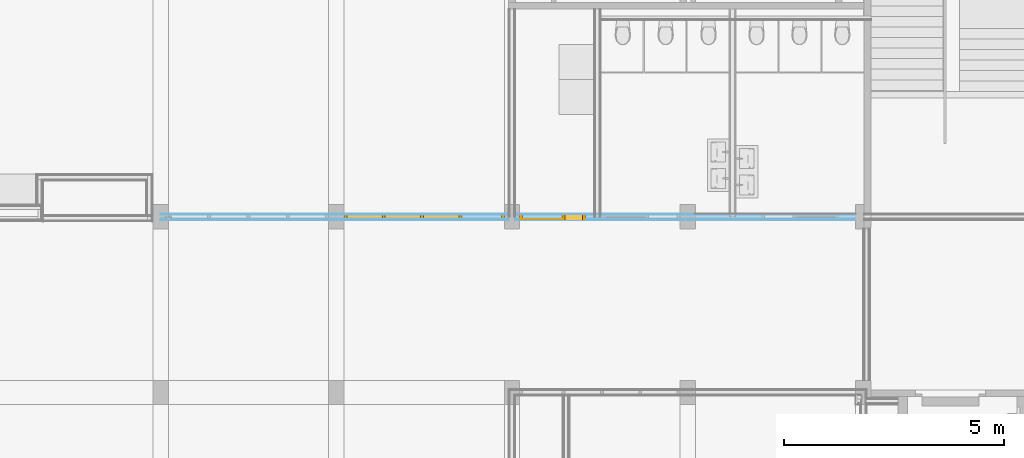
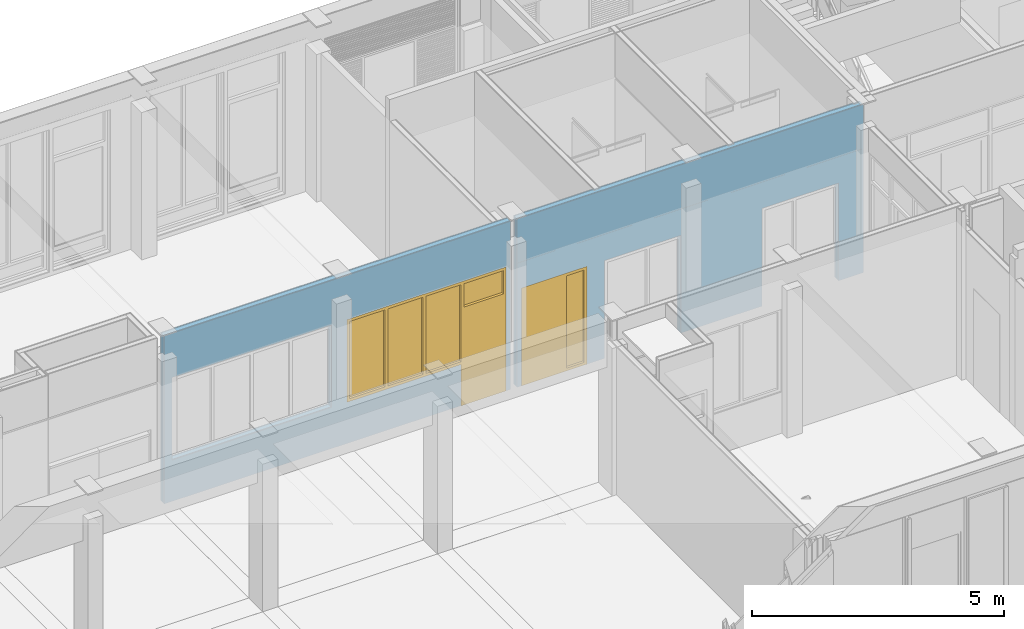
# One storey, part 62 of 109: 2 doors, 5 openings, 1 element without a shape of its own, plus 5 elements that do not belong to this part.
"""IFC2X3 building model written with IfcOpenShell, lengths in millimetres."""

from ifc_helpers import new_model, entity, si_unit, converted_unit, derived_unit, money_unit, direction, frame, origin_with_axes, place, context, subcontext, project, spatial, open_shell, faceted_brep, surface_model, material, type_object, element, fill, aggregate, save


model = new_model("IFC2X3")

# Units and contexts
model_context = context("Model", 3, precision=0.01, world=origin_with_axes(), true_north=direction((0.0, 1.0)))
body_context = subcontext(model_context, "Body", "Model", "MODEL_VIEW")
ifc_project = project(units=[si_unit("LENGTHUNIT", "METRE", prefix="MILLI"), si_unit("AREAUNIT", "SQUARE_METRE"), si_unit("VOLUMEUNIT", "CUBIC_METRE"), converted_unit("PLANEANGLEUNIT", "DEGREE", entity("IfcPlaneAngleMeasure", 0.0174532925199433), si_unit("PLANEANGLEUNIT", "RADIAN"), dimensions=[0, 0, 0, 0, 0, 0, 0]), money_unit("EUR"), converted_unit("TIMEUNIT", "Year", entity("IfcTimeMeasure", 31557600.0), si_unit("TIMEUNIT", "SECOND"), dimensions=[0, 0, 1, 0, 0, 0, 0]), si_unit("MASSUNIT", "GRAM", prefix="KILO"), si_unit("THERMODYNAMICTEMPERATUREUNIT", "DEGREE_CELSIUS"), si_unit("LUMINOUSINTENSITYUNIT", "LUMEN"), si_unit("ENERGYUNIT", "JOULE", prefix="MEGA"), derived_unit("THERMALCONDUCTANCEUNIT", [(si_unit("POWERUNIT", "WATT"), 1), (si_unit("LENGTHUNIT", "METRE"), -1), (si_unit("THERMODYNAMICTEMPERATUREUNIT", "KELVIN"), -1)]), derived_unit("SPECIFICHEATCAPACITYUNIT", [(si_unit("ENERGYUNIT", "JOULE"), 1), (si_unit("MASSUNIT", "GRAM", prefix="KILO"), -1), (si_unit("THERMODYNAMICTEMPERATUREUNIT", "KELVIN"), -1)]), derived_unit("MASSDENSITYUNIT", [(si_unit("MASSUNIT", "GRAM", prefix="KILO"), 1), (si_unit("VOLUMEUNIT", "CUBIC_METRE"), -1)])], contexts=[model_context])

# Site, building, storey
site_placement = place(None, origin_with_axes())
site = spatial("IfcSite", under=ifc_project, at=site_placement, Name="<site naam>", CompositionType="ELEMENT")
building_placement = place(site_placement, origin_with_axes())
building = spatial("IfcBuilding", under=site, at=building_placement, Name="<Naam gebouw>", CompositionType="ELEMENT")
storey_placement = place(building_placement, origin_with_axes())
storey = spatial("IfcBuildingStorey", under=building, at=storey_placement, Name="00 Begane grond", CompositionType="ELEMENT", Elevation=0.0)

# Door
door_style_1 = type_object("IfcDoorStyle", Name="D1 bl zl1-b 27", ConstructionType="NOTDEFINED", OperationType="SINGLE_SWING_LEFT", ParameterTakesPrecedence=False, Sizeable=False)
wall_placement = place(storey_placement, frame((32000.05040030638, 11999.96371028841, 0.0), z_axis=(0.0, 0.0, 1.0), x_axis=(0.999999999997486, 2.242345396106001e-06, 0.0)))
opening_5_placement = place(wall_placement, frame((5999.95021640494, 0.0, 0.0), z_axis=(0.0, 0.0, 1.0), x_axis=(1.0, 0.0, 0.0)))
door_1_placement = place(opening_5_placement, frame((450.0000000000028, 0.0, 0.0), z_axis=(0.0, 0.0, 1.0), x_axis=(-1.0, 0.0, 0.0)))
door_1 = element("IfcDoor", 1, at=door_1_placement, inside=storey, type_object=door_style_1, Name="22_BI-E-02_305", ObjectType="DOOR", OverallHeight=3000.0, OverallWidth=3650.0, context=body_context, shape_type="SurfaceModel", body=[
    faceted_brep([(2275.00000000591, 75.00936168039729, 1000.0), (2274.999744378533, -38.99063831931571, 1000.0), (2207.999744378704, -38.99048808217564, 1000.0), (2208.000000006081, 75.00951191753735, 1000.0), (2275.00000000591, 75.00936168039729, 2933.0), (2274.999744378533, -38.99063831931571, 2933.0), (2207.999744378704, -38.99048808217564, 2933.0), (2207.999744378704, -38.99048808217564, 1067.0), (2208.000000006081, 75.00951191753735, 1067.0), (2208.000000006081, 75.00951191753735, 2933.0)], [[[0, 1, 2, 3]], [[4, 5, 1, 0]], [[1, 5, 6, 7, 2]], [[3, 2, 7, 8]], [[0, 3, 8, 9, 4]], [[9, 6, 5, 4]], [[8, 7, 6, 9]]]),
    faceted_brep([(-408.0000896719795, 35.0153778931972, 2317.0), (-408.0000896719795, 35.0153778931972, 2300.0), (-408.0002556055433, -38.98462210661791, 2300.0), (-408.0002556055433, -38.98462210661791, 2367.0), (-407.9999999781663, 75.01537789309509, 2367.0), (-407.9999999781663, 75.01537789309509, 2317.0), (-391.0000896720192, 35.01533977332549, 2317.0), (-391.0000896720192, 35.01533977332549, 0.0), (-408.0000896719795, 35.0153778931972, 0.0), (-408.0002556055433, -38.98462210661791, 0.0), (-341.0002556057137, -38.98477234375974, 0.0), (-341.0002556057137, -38.98477234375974, 1000.0), (-341.0002556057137, -38.98477234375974, 1067.0), (-341.0002556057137, -38.98477234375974, 2933.0), (-408.0002556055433, -38.98462210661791, 2933.0), (-407.9999999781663, 75.01537789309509, 2933.0), (-390.9999999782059, 75.01533977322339, 2317.0), (-340.9999999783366, 75.01522765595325, 2933.0), (-340.9999999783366, 75.01522765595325, 1067.0), (-340.9999999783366, 75.01522765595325, 1000.0), (-340.9999999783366, 75.01522765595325, 0.0), (-390.9999999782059, 75.01533977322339, 0.0)], [[[0, 1, 2, 3, 4, 5]], [[0, 6, 7, 8, 1]], [[8, 9, 2, 1]], [[2, 9, 10, 11, 12, 13, 14, 3]], [[15, 4, 3, 14]], [[16, 5, 4, 15, 17, 18, 19, 20, 21]], [[5, 16, 6, 0]], [[21, 7, 6, 16]], [[7, 21, 20, 10, 9, 8]], [[20, 19, 11, 10]], [[19, 18, 12, 11]], [[18, 17, 13, 12]], [[17, 15, 14, 13]]]),
    faceted_brep([(2208.000000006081, 75.00951191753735, 1067.0), (2207.999744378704, -38.99048808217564, 1067.0), (2207.999744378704, -38.99048808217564, 1000.0), (2208.000000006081, 75.00951191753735, 1000.0), (-340.9999999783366, 75.01522765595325, 1067.0), (-341.0002556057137, -38.98477234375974, 1067.0), (-341.0002556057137, -38.98477234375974, 1000.0), (-340.9999999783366, 75.01522765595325, 1000.0)], [[[0, 1, 2, 3]], [[4, 5, 1, 0]], [[1, 5, 6, 2]], [[3, 2, 6, 7]], [[0, 3, 7, 4]], [[7, 6, 5, 4]]]),
    faceted_brep([(-1324.999999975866, 75.01743412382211, 2317.0), (-1324.999999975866, 75.01743412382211, 0.0), (-1374.999999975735, 75.01754624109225, 0.0), (-1374.999999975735, 75.01754624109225, 2933.0), (-1307.999999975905, 75.01739600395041, 2933.0), (-1307.999999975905, 75.01739600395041, 2367.0), (-1307.999999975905, 75.01739600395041, 2317.0), (-1325.000089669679, 35.01743412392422, 2317.0), (-1325.000089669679, 35.01743412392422, 0.0), (-1308.000089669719, 35.01739600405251, 0.0), (-1308.000255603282, -38.98260399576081, 0.0), (-1375.000255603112, -38.98245375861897, 0.0), (-1375.000255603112, -38.98245375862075, 2933.0), (-1308.000255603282, -38.98260399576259, 2933.0), (-1308.000255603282, -38.98260399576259, 2367.0), (-1308.000089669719, 35.01739600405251, 2317.0), (-1308.000255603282, -38.98260399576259, 2300.0)], [[[0, 1, 2, 3, 4, 5, 6]], [[0, 7, 8, 1]], [[8, 9, 10, 11, 2, 1]], [[3, 2, 11, 12]], [[4, 3, 12, 13]], [[5, 4, 13, 14]], [[15, 6, 5, 14, 16, 10, 9]], [[6, 15, 7, 0]], [[8, 7, 15, 9]], [[14, 13, 12, 11, 10, 16]]]),
    faceted_brep([(2275.00000000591, 75.00936168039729, 3000.0), (2274.999744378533, -38.99063831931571, 3000.0), (2274.999744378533, -38.99063831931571, 2933.0), (2275.00000000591, 75.00936168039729, 2933.0), (-1374.999999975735, 75.01754624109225, 3000.0), (-1375.000255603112, -38.98245375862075, 3000.0), (-1375.000255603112, -38.98245375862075, 2933.0), (-1308.000255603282, -38.98260399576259, 2933.0), (-408.0002556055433, -38.98462210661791, 2933.0), (-341.0002556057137, -38.98477234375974, 2933.0), (2207.999744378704, -38.99048808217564, 2933.0), (2208.000000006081, 75.00951191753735, 2933.0), (-340.9999999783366, 75.01522765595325, 2933.0), (-407.9999999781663, 75.01537789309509, 2933.0), (-1307.999999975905, 75.01739600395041, 2933.0), (-1374.999999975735, 75.01754624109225, 2933.0)], [[[0, 1, 2, 3]], [[4, 5, 1, 0]], [[1, 5, 6, 7, 8, 9, 10, 2]], [[3, 2, 10, 11]], [[0, 3, 11, 12, 13, 14, 15, 4]], [[15, 6, 5, 4]], [[14, 7, 6, 15]], [[13, 8, 7, 14]], [[12, 9, 8, 13]], [[11, 10, 9, 12]]]),
    faceted_brep([(-1308.000089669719, 35.01739600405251, 2317.0), (-1308.000089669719, 35.01739600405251, 2300.0), (-1308.000255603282, -38.98260399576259, 2300.0), (-1308.000255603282, -38.98260399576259, 2367.0), (-1307.999999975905, 75.01739600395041, 2367.0), (-1307.999999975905, 75.01739600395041, 2317.0), (-408.0000896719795, 35.0153778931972, 2317.0), (-408.0000896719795, 35.0153778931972, 2300.0), (-408.0002556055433, -38.98462210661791, 2300.0), (-408.0002556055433, -38.98462210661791, 2367.0), (-407.9999999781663, 75.01537789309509, 2367.0), (-407.9999999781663, 75.01537789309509, 2317.0)], [[[0, 1, 2, 3, 4, 5]], [[0, 6, 7, 1]], [[7, 8, 2, 1]], [[8, 9, 3, 2]], [[10, 4, 3, 9]], [[5, 4, 10, 11]], [[5, 11, 6, 0]], [[6, 11, 10, 9, 8, 7]]]),
    faceted_brep([(-1324.999999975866, 75.01743412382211, 0.0), (-390.999999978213, 75.01533977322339, 0.0), (-391.0000896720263, 35.01533977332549, 0.0), (-1325.000089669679, 35.01743412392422, 0.0), (-1324.999999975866, 75.01743412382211, 2317.0), (-390.999999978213, 75.01533977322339, 2317.0), (-391.0000896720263, 35.01533977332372, 2317.0), (-1325.000089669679, 35.01743412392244, 2317.0)], [[[0, 1, 2, 3]], [[0, 4, 5, 1]], [[1, 5, 6, 2]], [[3, 2, 6, 7]], [[4, 0, 3, 7]], [[5, 4, 7, 6]]]),
    faceted_brep([(-408.0001345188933, 15.01537789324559, 2367.0), (-408.0002556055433, -38.98462210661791, 2367.0), (-1308.000255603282, -38.98260399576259, 2367.0), (-1308.000134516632, 15.0173960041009, 2367.0), (-408.0001345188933, 15.01537789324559, 2933.0), (-408.0002556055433, -38.98462210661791, 2933.0), (-1308.000255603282, -38.98260399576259, 2933.0), (-1308.000134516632, 15.0173960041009, 2933.0)], [[[0, 1, 2, 3]], [[4, 5, 1, 0]], [[1, 5, 6, 2]], [[3, 2, 6, 7]], [[0, 3, 7, 4]], [[7, 6, 5, 4]]]),
    surface_model("IfcShellBasedSurfaceModel", [(1402.999878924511, 21.01131700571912, 1067.0), (1402.999878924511, 21.01131700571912, 2933.0), (2207.999878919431, 21.00951191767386, 2933.0), (2207.999878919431, 21.00951191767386, 1067.0)], [open_shell([[[0, 1, 2, 3]]])]),
    surface_model("IfcShellBasedSurfaceModel", [(1402.999852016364, 9.011317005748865, 1067.0), (2207.999852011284, 9.009511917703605, 1067.0), (2207.999852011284, 9.009511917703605, 2933.0), (1402.999852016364, 9.011317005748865, 2933.0)], [open_shell([[[0, 1, 2, 3]]])]),
    surface_model("IfcShellBasedSurfaceModel", [(530.9998789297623, 21.01327233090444, 1067.0), (530.9998789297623, 21.01327233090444, 2933.0), (1335.999878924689, 21.01146724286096, 2933.0), (1335.999878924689, 21.01146724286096, 1067.0)], [open_shell([[[0, 1, 2, 3]]])]),
    surface_model("IfcShellBasedSurfaceModel", [(530.9998520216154, 9.013272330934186, 1067.0), (1335.999852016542, 9.011467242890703, 1067.0), (1335.999852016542, 9.011467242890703, 2933.0), (530.9998520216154, 9.013272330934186, 2933.0)], [open_shell([[[0, 1, 2, 3]]])]),
    surface_model("IfcShellBasedSurfaceModel", [(-341.0001210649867, 21.01522765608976, 1067.0), (-341.0001210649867, 21.01522765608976, 2933.0), (463.9998789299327, 21.01342256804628, 2933.0), (463.9998789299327, 21.01342256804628, 1067.0)], [open_shell([[[0, 1, 2, 3]]])]),
    surface_model("IfcShellBasedSurfaceModel", [(-341.0001479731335, 9.015227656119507, 1067.0), (463.9998520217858, 9.013422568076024, 1067.0), (463.9998520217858, 9.013422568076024, 2933.0), (-341.0001479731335, 9.015227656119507, 2933.0)], [open_shell([[[0, 1, 2, 3]]])]),
    faceted_brep([(1403.000000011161, 75.01131700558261, 1067.0), (1402.999744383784, -38.98868299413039, 1067.0), (1335.999744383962, -38.98853275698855, 1067.0), (1336.000000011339, 75.01146724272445, 1067.0), (1403.000000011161, 75.01131700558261, 2933.0), (1402.999744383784, -38.98868299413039, 2933.0), (1335.999744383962, -38.98853275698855, 2933.0), (1336.000000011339, 75.01146724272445, 2933.0)], [[[0, 1, 2, 3]], [[4, 5, 1, 0]], [[1, 5, 6, 2]], [[3, 2, 6, 7]], [[0, 3, 7, 4]], [[7, 6, 5, 4]]]),
    faceted_brep([(531.0000000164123, 75.01327233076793, 1067.0), (530.9997443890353, -38.98672766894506, 1067.0), (463.9997443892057, -38.98657743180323, 1067.0), (464.0000000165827, 75.01342256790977, 1067.0), (531.0000000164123, 75.01327233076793, 2933.0), (530.9997443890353, -38.98672766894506, 2933.0), (463.9997443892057, -38.98657743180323, 2933.0), (464.0000000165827, 75.01342256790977, 2933.0)], [[[0, 1, 2, 3]], [[4, 5, 1, 0]], [[1, 5, 6, 2]], [[3, 2, 6, 7]], [[0, 3, 7, 4]], [[7, 6, 5, 4]]]),
])

door_style_2 = type_object("IfcDoorStyle", Name="D1 zl1-b 27", ConstructionType="NOTDEFINED", OperationType="SINGLE_SWING_RIGHT", ParameterTakesPrecedence=False, Sizeable=False)
opening_3_placement = place(wall_placement, frame((8924.950216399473, 0.0, 0.0), z_axis=(0.0, 0.0, 1.0), x_axis=(1.0, 0.0, 0.0)))
door_2_placement = place(opening_3_placement, frame((750.000000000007, 0.0, 0.0), z_axis=(0.0, 0.0, 1.0), x_axis=(-1.0, 0.0, 0.0)))
door_2 = element("IfcDoor", 2, at=door_2_placement, inside=storey, type_object=door_style_2, Name="22_BI-C-02 sp_305", ObjectType="DOOR", OverallHeight=2367.0, OverallWidth=1500.0, context=body_context, shape_type="SurfaceModel", body=[
    faceted_brep([(2.433608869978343e-08, 75.0216945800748, 0.0), (67.00000002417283, 75.02154434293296, 0.0), (66.99974439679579, -38.97845565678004, 0.0), (-0.0002556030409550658, -38.9783054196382, 0.0), (2.433608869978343e-08, 75.0216945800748, 2300.0), (67.00000002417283, 75.02154434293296, 2300.0), (67.00000002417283, 75.02154434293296, 67.0), (66.99974439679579, -38.97845565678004, 66.99999999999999), (66.99974439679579, -38.97845565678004, 2300.0), (-0.0002556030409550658, -38.9783054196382, 2300.0)], [[[0, 1, 2, 3]], [[0, 4, 5, 6, 1]], [[1, 6, 7, 2]], [[3, 2, 7, 8, 9]], [[4, 0, 3, 9]], [[5, 4, 9, 8]], [[6, 5, 8, 7]]]),
    faceted_brep([(532.9999103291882, 35.02049941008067, 0.0), (532.9999103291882, 35.0204994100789, 2300.0), (532.9997443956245, -38.97950058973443, 2300.0), (532.9997443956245, -38.97950058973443, 0.0), (515.9999103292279, 35.0205375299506, 2300.0), (515.9999103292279, 35.02053752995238, 0.0), (516.0000000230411, 75.02053752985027, 2300.0), (466.0000000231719, 75.02064964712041, 2300.0), (465.9997443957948, -38.97935035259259, 2300.0), (465.9997443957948, -38.97935035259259, 0.0), (465.9997443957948, -38.97935035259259, 66.99999999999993), (466.0000000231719, 75.02064964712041, 0.0), (516.0000000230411, 75.02053752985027, 0.0), (466.0000000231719, 75.02064964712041, 66.99999999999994)], [[[0, 1, 2, 3]], [[4, 1, 0, 5]], [[4, 6, 7, 8, 2, 1]], [[9, 3, 2, 8, 10]], [[5, 0, 3, 9, 11, 12]], [[6, 4, 5, 12]], [[6, 12, 11, 13, 7]], [[13, 10, 8, 7]], [[11, 9, 10, 13]]]),
    faceted_brep([(67.00000002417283, 75.02154434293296, 67.0), (67.00000002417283, 75.02154434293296, 0.0), (66.99974439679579, -38.97845565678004, 0.0), (66.99974439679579, -38.97845565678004, 66.99999999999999), (466.0000000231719, 75.02064964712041, 67.0), (466.0000000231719, 75.02064964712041, 0.0), (465.9997443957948, -38.97935035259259, 0.0), (465.9997443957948, -38.97935035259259, 66.99999999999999)], [[[0, 1, 2, 3]], [[0, 4, 5, 1]], [[1, 5, 6, 2]], [[3, 2, 6, 7]], [[4, 0, 3, 7]], [[5, 4, 7, 6]]]),
    faceted_brep([(1449.999910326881, 35.01844317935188, 2300.0), (1432.99991032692, 35.01848129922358, 2300.0), (1432.999744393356, -38.98151870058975, 2300.0), (1499.999744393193, -38.98166893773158, 2300.0), (1500.00000002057, 75.01833106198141, 2300.0), (1450.000000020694, 75.01844317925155, 2300.0), (1449.999910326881, 35.01844317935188, 0.0), (1432.99991032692, 35.01848129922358, 0.0), (1432.999744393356, -38.98151870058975, 0.0), (1499.999744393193, -38.98166893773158, 0.0), (1500.00000002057, 75.01833106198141, 0.0), (1450.000000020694, 75.01844317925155, 0.0)], [[[0, 1, 2, 3, 4, 5]], [[1, 0, 6, 7]], [[1, 7, 8, 2]], [[3, 2, 8, 9]], [[4, 3, 9, 10]], [[11, 5, 4, 10]], [[0, 5, 11, 6]], [[6, 11, 10, 9, 8, 7]]]),
    faceted_brep([(516.0000000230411, 75.02053752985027, 2317.0), (516.0000000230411, 75.02053752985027, 2300.0), (466.0000000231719, 75.02064964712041, 2300.0), (67.00000002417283, 75.02154434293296, 2300.0), (2.433608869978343e-08, 75.0216945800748, 2300.0), (2.433608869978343e-08, 75.0216945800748, 2367.0), (1500.00000002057, 75.01833106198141, 2367.0), (1500.00000002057, 75.01833106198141, 2300.0), (1450.000000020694, 75.01844317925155, 2300.0), (1450.000000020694, 75.01844317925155, 2317.0), (515.9999103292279, 35.0205375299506, 2317.0), (515.9999103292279, 35.0205375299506, 2300.0), (1432.99991032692, 35.01848129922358, 2300.0), (1432.999744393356, -38.98151870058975, 2300.0), (532.9997443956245, -38.97950058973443, 2300.0), (465.9997443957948, -38.97935035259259, 2300.0), (66.99974439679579, -38.97845565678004, 2300.0), (-0.0002556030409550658, -38.9783054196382, 2300.0), (-0.0002556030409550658, -38.9783054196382, 2367.0), (1499.999744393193, -38.98166893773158, 2367.0), (1499.999744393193, -38.98166893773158, 2300.0), (1449.999910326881, 35.01844317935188, 2300.0), (1449.999910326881, 35.01844317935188, 2317.0)], [[[0, 1, 2, 3, 4, 5, 6, 7, 8, 9]], [[1, 0, 10, 11]], [[11, 12, 13, 14, 15, 2, 1]], [[2, 15, 16, 3]], [[3, 16, 17, 4]], [[4, 17, 18, 5]], [[5, 18, 19, 6]], [[6, 19, 20, 7]], [[21, 8, 7, 20, 13, 12]], [[9, 8, 21, 22]], [[0, 9, 22, 10]], [[21, 12, 11, 10, 22]], [[13, 20, 19, 18, 17, 16, 15, 14]]]),
    faceted_brep([(1450.000000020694, 75.01844317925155, 0.0), (1449.999910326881, 35.01844317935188, 0.0), (515.9999103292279, 35.02053752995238, 0.0), (516.0000000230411, 75.02053752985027, 0.0), (1450.000000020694, 75.01844317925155, 2317.0), (1449.999910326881, 35.01844317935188, 2317.0), (515.9999103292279, 35.0205375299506, 2317.0), (516.0000000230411, 75.02053752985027, 2317.0)], [[[0, 1, 2, 3]], [[4, 5, 1, 0]], [[1, 5, 6, 2]], [[3, 2, 6, 7]], [[0, 3, 7, 4]], [[7, 6, 5, 4]]]),
    surface_model("IfcShellBasedSurfaceModel", [(66.9998789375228, 21.02154434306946, 67.0), (66.9998789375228, 21.02154434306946, 2300.0), (465.9998789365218, 21.02064964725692, 2300.0), (465.9998789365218, 21.02064964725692, 67.0)], [open_shell([[[0, 1, 2, 3]]])]),
    surface_model("IfcShellBasedSurfaceModel", [(66.99985202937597, 9.021544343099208, 67.0), (465.999852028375, 9.02064964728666, 67.0), (465.999852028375, 9.02064964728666, 2300.0), (66.99985202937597, 9.021544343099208, 2300.0)], [open_shell([[[0, 1, 2, 3]]])]),
])

# Wall, openings
wall_type = type_object("IfcWallType", Name="MS-01 GF 150 ECO DGS/2.100.2.A 150", PredefinedType="NOTDEFINED")
wall = element("IfcWall", 3, at=wall_placement, inside=storey, type_object=wall_type, Name="22_Binnenwand_MS-01")
opening_1_placement = place(wall_placement, frame((1999.982031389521, 0.0, 1000.0), z_axis=(0.0, 0.0, 1.0), x_axis=(1.0, 0.0, 0.0)))
element("IfcOpeningElement", 4, at=opening_1_placement, cuts=wall, Name="22_BI-E-01_305", context=body_context, shape_type="Brep", body=[
    faceted_brep([(1824.967290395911, 76.02730055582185, 2000.0), (1824.967290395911, 76.02730055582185, 0.0), (-1824.966613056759, 76.03548496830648, 0.0), (-1824.966613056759, 76.03548496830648, 2000.0), (1824.966949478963, -76.00857685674, 2000.0), (1824.966949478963, -76.00857685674, 0.0), (-1824.966953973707, -76.00039244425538, 0.0), (-1824.966953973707, -76.00039244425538, 2000.0)], [[[0, 1, 2, 3]], [[4, 5, 1, 0]], [[5, 6, 2, 1]], [[6, 7, 3, 2]], [[7, 4, 0, 3]], [[6, 5, 4, 7]]]),
])
opening_2_placement = place(wall_placement, frame((10949.95021639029, 0.0, 0.0), z_axis=(0.0, 0.0, 1.0), x_axis=(1.0, 0.0, 0.0)))
element("IfcOpeningElement", 5, at=opening_2_placement, cuts=wall, Name="22_BI-C-01_305", context=body_context, shape_type="Brep", body=[
    faceted_brep([(875.0003386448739, 76.00936178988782, 2367.0), (875.0003386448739, 76.00936178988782, 0.0), (-874.9996613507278, 76.0132858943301, 0.0), (-874.9996613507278, 76.0132858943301, 2367.0), (874.9999977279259, -76.02651562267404, 2367.0), (874.9999977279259, -76.02651562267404, 0.0), (-875.0000022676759, -76.02259151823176, 0.0), (-875.0000022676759, -76.02259151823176, 2367.0)], [[[0, 1, 2, 3]], [[4, 5, 1, 0]], [[5, 6, 2, 1]], [[6, 7, 3, 2]], [[7, 4, 0, 3]], [[6, 5, 4, 7]]]),
])
opening_3 = element("IfcOpeningElement", 6, at=opening_3_placement, cuts=wall, Name="22_BI-C-02 sp_305", context=body_context, shape_type="Brep", body=[
    faceted_brep([(750.000338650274, 76.0141828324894, 2367.0), (750.000338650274, 76.0141828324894, 0.0), (-749.99966134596, 76.01754635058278, 0.0), (-749.99966134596, 76.01754635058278, 2367.0), (749.999997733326, -76.02169458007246, 2367.0), (749.999997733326, -76.02169458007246, 0.0), (-750.0000022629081, -76.01833106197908, 0.0), (-750.0000022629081, -76.01833106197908, 2367.0)], [[[0, 1, 2, 3]], [[4, 5, 1, 0]], [[5, 6, 2, 1]], [[6, 7, 3, 2]], [[7, 4, 0, 3]], [[6, 5, 4, 7]]]),
])

fill(opening_3, door_2)

# Opening
opening_4_placement = place(wall_placement, frame((14554.32530861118, 0.0, 0.0), z_axis=(0.0, 0.0, 1.0), x_axis=(1.0, 0.0, 0.0)))
element("IfcOpeningElement", 7, at=opening_4_placement, cuts=wall, Name="22_BI-C-01 sp_305", context=body_context, shape_type="Brep", body=[
    faceted_brep([(875.0003386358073, 76.00127953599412, 2367.0), (875.0003386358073, 76.00127953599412, 0.0), (-874.9996613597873, 76.00520364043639, 0.0), (-874.9996613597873, 76.00520364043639, 2367.0), (874.9999977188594, -76.03459787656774, 2367.0), (874.9999977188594, -76.03459787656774, 0.0), (-875.0000022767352, -76.03067377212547, 0.0), (-875.0000022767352, -76.03067377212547, 2367.0)], [[[0, 1, 2, 3]], [[4, 5, 1, 0]], [[5, 6, 2, 1]], [[6, 7, 3, 2]], [[7, 4, 0, 3]], [[6, 5, 4, 7]]]),
])

opening_5 = element("IfcOpeningElement", 8, at=opening_5_placement, cuts=wall, Name="22_BI-E-02_305", context=body_context, shape_type="Brep", body=[
    faceted_brep([(1825.000338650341, 76.01833117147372, 3000.0), (1825.000338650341, 76.01833117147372, 0.0), (791.0003386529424, 76.02064975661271, 0.0), (791.0003386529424, 76.02064975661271, 1000.0), (-1824.999661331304, 76.02651573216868, 1000.0), (-1824.999661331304, 76.02651573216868, 3000.0), (1824.999997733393, -76.01754624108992, 3000.0), (1824.999997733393, -76.01754624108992, 0.0), (790.9999977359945, -76.01522765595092, 0.0), (790.9999977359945, -76.01522765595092, 1000.0), (-1825.000002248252, -76.00936168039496, 1000.0), (-1825.000002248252, -76.00936168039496, 3000.0)], [[[0, 1, 2, 3, 4, 5]], [[6, 7, 1, 0]], [[7, 8, 2, 1]], [[8, 9, 3, 2]], [[9, 10, 4, 3]], [[10, 11, 5, 4]], [[11, 6, 0, 5]], [[8, 7, 6, 11, 10, 9]]]),
])

fill(opening_5, door_1)

# Building element part
ifc_material_1 = material(Name="gipsplaat")
building_element_part_1_placement = place(wall_placement, origin_with_axes())
building_element_part_1 = element("IfcBuildingElementPart", 9, at=building_element_part_1_placement, material=ifc_material_1, Name="gipsplaat", context=body_context, shape_type="Brep", body=[
    faceted_brep([(8174.949767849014, 74.98166893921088, 3.000000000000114), (8174.949767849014, 74.98166893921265, 0.0), (8074.949767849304, 74.98189317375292, 0.0), (8074.949767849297, 74.98189317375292, 3000.0), (9874.949767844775, 74.97785695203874, 3000.0), (9874.949767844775, 74.97785695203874, 3040.0), (8074.949767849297, 74.98189317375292, 3040.0), (8074.949767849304, 74.98189317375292, 4070.0), (15999.94976787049, 74.9641225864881, 4070.0), (15999.94976787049, 74.9641225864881, 3040.0), (10024.9497678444, 74.97752060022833, 3040.0), (10024.9497678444, 74.97752060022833, 3000.0), (15999.94976787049, 74.9641225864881, 3000.0), (15999.94976787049, 74.9641225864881, 0.0), (9874.949767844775, 74.97785695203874, 0.0), (9874.949767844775, 74.97785695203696, 3.000000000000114), (8174.949764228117, 73.3668869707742, 3.000000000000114), (8174.949764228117, 73.3668869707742, 0.0), (9874.949764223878, 73.36307498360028, 0.0), (15999.94973984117, 62.46412258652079, 0.0), (8074.949739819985, 62.48189317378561, 0.0), (8074.949765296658, 73.84351580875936, 3000.0), (8074.949739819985, 62.48189317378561, 4070.0), (8074.949765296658, 73.84351580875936, 3040.0), (9874.949765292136, 73.83947958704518, 3000.0), (9874.949765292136, 73.83947958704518, 3040.0), (15999.94973984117, 62.46412258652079, 4070.0), (15999.94976531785, 73.82574522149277, 3000.0), (15999.94976531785, 73.82574522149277, 3040.0), (10024.94976529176, 73.83914323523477, 3040.0), (10024.94976529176, 73.83914323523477, 3000.0), (9874.949764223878, 73.36307498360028, 3.000000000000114)], [[[0, 1, 2, 3, 4, 5, 6, 7, 8, 9, 10, 11, 12, 13, 14, 15]], [[1, 0, 16, 17]], [[18, 14, 13, 19, 20, 2, 1, 17]], [[21, 3, 2, 20, 22, 7, 6, 23]], [[4, 3, 21, 24]], [[5, 4, 24, 25]], [[6, 5, 25, 23]], [[22, 26, 8, 7]], [[27, 28, 9, 8, 26, 19, 13, 12]], [[10, 9, 28, 29]], [[11, 10, 29, 30]], [[27, 12, 11, 30]], [[15, 14, 18, 31]], [[0, 15, 31, 16]], [[18, 17, 16, 31]], [[20, 19, 26, 22]], [[21, 23, 25, 24]], [[28, 27, 30, 29]]]),
    faceted_brep([(12174.94982266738, 74.85548343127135, 3560.0), (12174.94982266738, 74.85548343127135, 3600.0), (12174.94981983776, 73.59358608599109, 3600.0), (12174.94981983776, 73.59358608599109, 3560.0), (15824.94983563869, 74.8472988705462, 3560.0), (15824.94983563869, 74.8472988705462, 3600.0), (15824.94983280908, 73.58540152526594, 3600.0), (15824.94983280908, 73.58540152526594, 3560.0)], [[[0, 1, 2, 3]], [[4, 5, 1, 0]], [[1, 5, 6, 2]], [[3, 2, 6, 7]], [[0, 3, 7, 4]], [[7, 6, 5, 4]]]),
    faceted_brep([(7924.949767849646, 74.98222952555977, 3.000000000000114), (0.0001681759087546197, 74.99999999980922, 3.000000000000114), (0.0001681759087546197, 74.999999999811, 4070.0), (7924.949767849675, 74.98222952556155, 4070.0), (7824.811571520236, 74.98245406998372, 3700.0), (7824.949806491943, 74.982453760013, 3700.0), (7824.949806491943, 74.982453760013, 3740.0), (7824.811571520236, 74.98245406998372, 3740.0), (7924.949739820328, 62.48222952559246, 3.000000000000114), (0.0001401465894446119, 62.4999999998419, 3.000000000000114), (0.0001401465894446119, 62.4999999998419, 4070.0), (7924.949739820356, 62.48222952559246, 4070.0), (7824.811552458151, 66.48149438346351, 3700.0), (7824.949787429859, 66.4814940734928, 3700.0), (7824.949787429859, 66.4814940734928, 3740.0), (7824.811552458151, 66.48149438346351, 3740.0)], [[[0, 1, 2, 3], [4, 5, 6, 7]], [[1, 0, 8, 9]], [[1, 9, 10, 2]], [[11, 3, 2, 10]], [[8, 0, 3, 11]], [[5, 4, 12, 13]], [[6, 5, 13, 14]], [[7, 6, 14, 15]], [[4, 7, 15, 12]], [[9, 8, 11, 10]], [[12, 15, 14, 13]]]),
])

building_element_part_2_placement = place(wall_placement, origin_with_axes())
building_element_part_2 = element("IfcBuildingElementPart", 10, at=building_element_part_2_placement, material=ifc_material_1, Name="gipsplaat", context=body_context, shape_type="Brep", body=[
    faceted_brep([(8074.949711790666, 49.98189317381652, 4070.0), (15999.94971181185, 49.9641225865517, 4070.0), (15999.94973984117, 62.46412258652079, 4070.0), (8074.949739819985, 62.48189317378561, 4070.0), (8074.949711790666, 49.98189317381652, 0.0), (15999.94971181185, 49.9641225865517, 0.0), (15999.94973984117, 62.46412258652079, 0.0), (8074.949739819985, 62.48189317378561, 0.0)], [[[0, 1, 2, 3]], [[4, 5, 1, 0]], [[2, 1, 5, 6]], [[3, 2, 6, 7]], [[4, 0, 3, 7]], [[7, 6, 5, 4]]]),
    faceted_brep([(7924.949711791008, 49.98222952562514, 3.000000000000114), (7924.949739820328, 62.48222952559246, 3.000000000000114), (7924.949739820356, 62.48222952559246, 4070.0), (7924.949711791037, 49.98222952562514, 4070.0), (0.0001401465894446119, 62.4999999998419, 3.000000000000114), (0.000112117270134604, 49.99999999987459, 3.000000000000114), (0.0001401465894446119, 62.4999999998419, 4070.0), (0.000112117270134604, 49.99999999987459, 4070.0)], [[[0, 1, 2, 3]], [[4, 1, 0, 5]], [[1, 4, 6, 2]], [[3, 2, 6, 7]], [[5, 0, 3, 7]], [[4, 5, 7, 6]]]),
])

building_element_part_3_placement = place(wall_placement, origin_with_axes())
building_element_part_3 = element("IfcBuildingElementPart", 11, at=building_element_part_3_placement, material=ifc_material_1, Name="gipsplaat", context=body_context, shape_type="Brep", body=[
    faceted_brep([(8074.949459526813, -62.51810682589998, 4070.0), (15999.949459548, -62.5358774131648, 4070.0), (15999.94948757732, -50.03587741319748, 4070.0), (8074.949487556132, -50.01810682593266, 4070.0), (8074.949459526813, -62.51810682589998, 0.0), (15999.949459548, -62.5358774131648, 0.0), (15999.94948757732, -50.03587741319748, 0.0), (8074.949487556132, -50.01810682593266, 0.0)], [[[0, 1, 2, 3]], [[4, 5, 1, 0]], [[2, 1, 5, 6]], [[3, 2, 6, 7]], [[4, 0, 3, 7]], [[7, 6, 5, 4]]]),
    faceted_brep([(7924.949459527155, -62.51777047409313, 3.000000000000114), (7924.949487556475, -50.01777047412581, 3.000000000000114), (7924.949487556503, -50.01777047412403, 4070.0), (7924.949459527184, -62.51777047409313, 4070.0), (-0.0001121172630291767, -49.99999999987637, 3.000000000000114), (-0.0001401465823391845, -62.49999999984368, 3.000000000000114), (-0.0001121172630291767, -49.99999999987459, 4070.0), (-0.0001401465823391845, -62.49999999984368, 4070.0)], [[[0, 1, 2, 3]], [[4, 1, 0, 5]], [[1, 4, 6, 2]], [[3, 2, 6, 7]], [[5, 0, 3, 7]], [[4, 5, 7, 6]]]),
])

building_element_part_4_placement = place(wall_placement, origin_with_axes())
building_element_part_4 = element("IfcBuildingElementPart", 12, at=building_element_part_4_placement, material=ifc_material_1, Name="gipsplaat", context=body_context, shape_type="Brep", body=[
    faceted_brep([(15999.94943160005, -74.99958850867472, 3.000000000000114), (15999.94943160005, -74.99958850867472, 0.0), (15999.949459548, -62.5358774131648, 0.0), (15999.949459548, -62.5358774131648, 4070.0), (15999.94943151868, -75.03587741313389, 4070.0), (15999.94943151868, -75.03587741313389, 3040.0), (15999.94943951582, -71.46945885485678, 3040.0), (15999.94943951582, -71.46945885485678, 3000.0), (15999.94943151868, -75.03587741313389, 3000.0), (15999.94943151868, -75.03587741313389, 3.000000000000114), (8074.949431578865, -74.9818179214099, 3.000000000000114), (8074.949431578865, -74.9818179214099, 0.0), (8074.949459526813, -62.51810682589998, 0.0), (8074.949459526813, -62.51810682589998, 4070.0), (8074.949431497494, -75.01810682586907, 4070.0), (8074.949431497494, -75.01810682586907, 3040.0), (8074.949439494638, -71.45168826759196, 3040.0), (8074.949439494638, -71.45168826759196, 3000.0), (8074.949431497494, -75.01810682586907, 3000.0), (8074.949431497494, -75.01810682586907, 3.000000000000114)], [[[0, 1, 2, 3, 4, 5, 6, 7, 8, 9]], [[1, 0, 10, 11]], [[1, 11, 12, 2]], [[13, 3, 2, 12]], [[14, 4, 3, 13]], [[15, 5, 4, 14]], [[6, 5, 15, 16]], [[7, 6, 16, 17]], [[8, 7, 17, 18]], [[19, 9, 8, 18]], [[0, 9, 19, 10]], [[10, 19, 18, 17, 16, 15, 14, 13, 12, 11]]]),
    faceted_brep([(7924.949431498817, -75.01733463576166, 3.000000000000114), (7924.949459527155, -62.51777047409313, 3.000000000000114), (7924.949459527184, -62.51777047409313, 4070.0), (7924.949431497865, -75.01777047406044, 4070.0), (7924.949431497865, -75.01777047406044, 3040.0), (7924.949439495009, -71.45135191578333, 3040.0), (7924.949439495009, -71.45135191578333, 3000.0), (7924.949431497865, -75.01777047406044, 3000.0), (-0.0001401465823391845, -62.49999999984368, 3.000000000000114), (-0.000168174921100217, -74.99956416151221, 3.000000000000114), (-0.0001401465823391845, -62.49999999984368, 4070.0), (-0.0001681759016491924, -74.999999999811, 4070.0), (7824.811232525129, -75.01754592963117, 3000.0), (7824.811232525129, -75.01754592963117, 3040.0), (7824.811240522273, -71.45112737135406, 3040.0), (7824.811240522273, -71.45112737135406, 3000.0)], [[[0, 1, 2, 3, 4, 5, 6, 7]], [[8, 1, 0, 9]], [[1, 8, 10, 2]], [[3, 2, 10, 11]], [[9, 0, 7, 12, 13, 4, 3, 11]], [[5, 4, 13, 14]], [[6, 5, 14, 15]], [[7, 6, 15, 12]], [[8, 9, 11, 10]], [[13, 12, 15, 14]]]),
])

ifc_material_2 = material(Name="isolatie_steenwol LSW")
building_element_part_5_placement = place(wall_placement, origin_with_axes())
building_element_part_5 = element("IfcBuildingElementPart", 13, at=building_element_part_5_placement, material=ifc_material_2, Name="isolatie_steenwol LSW", context=body_context, shape_type="Brep", body=[
    faceted_brep([(8074.949487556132, -50.01810682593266, 4070.0), (15999.94948757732, -50.03587741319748, 4070.0), (15999.94971181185, 49.9641225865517, 4070.0), (8074.949711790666, 49.98189317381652, 4070.0), (8074.949487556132, -50.01810682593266, 0.0), (15999.94948757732, -50.03587741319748, 0.0), (15999.94971181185, 49.9641225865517, 0.0), (8074.949711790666, 49.98189317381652, 0.0)], [[[0, 1, 2, 3]], [[4, 5, 1, 0]], [[2, 1, 5, 6]], [[3, 2, 6, 7]], [[4, 0, 3, 7]], [[7, 6, 5, 4]]]),
    faceted_brep([(7924.949487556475, -50.01777047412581, 3.000000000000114), (7924.949711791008, 49.98222952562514, 3.000000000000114), (7924.949711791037, 49.98222952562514, 4070.0), (7924.949487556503, -50.01777047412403, 4070.0), (0.000112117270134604, 49.99999999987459, 3.000000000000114), (-0.0001121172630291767, -49.99999999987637, 3.000000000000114), (0.000112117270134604, 49.99999999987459, 4070.0), (-0.0001121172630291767, -49.99999999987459, 4070.0)], [[[0, 1, 2, 3]], [[4, 1, 0, 5]], [[1, 4, 6, 2]], [[3, 2, 6, 7]], [[5, 0, 3, 7]], [[4, 5, 7, 6]]]),
])

aggregate(wall, [building_element_part_1, building_element_part_2, building_element_part_3, building_element_part_4, building_element_part_5])

save(model, "model.ifc")
